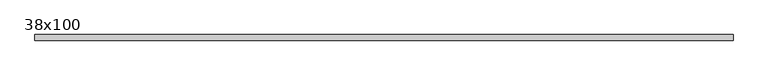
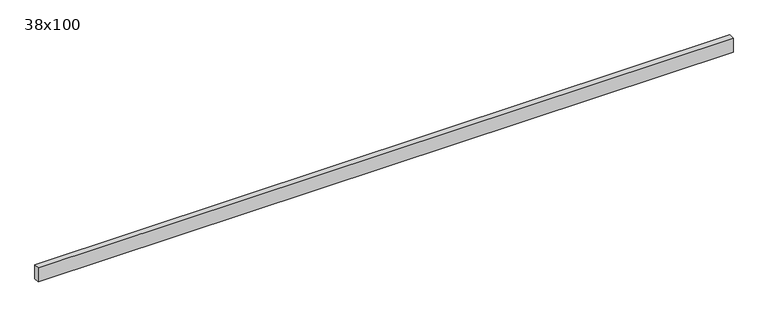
"""IFC4 building model written with IfcOpenShell, lengths in millimetres: beam geometry, Poutre - Bois de construction de dimensions courantes : 38x100."""

import ifcopenshell
import ifcopenshell.guid

model = None  # the IFC model being written
_history = None  # IfcOwnerHistory: only IFC2X3 demands one
_inside = {}  # id of a spatial element -> (the spatial element, [elements in it])
_under = {}  # id of a project, library or spatial element -> (it, [spatial elements below it])
_declared = {}  # id of a project -> (the project, [libraries it declares])
_typed = {}  # id of a type object -> (the type object, [elements of that type])
_made_of = {}  # id of a material, layer set ... -> (it, [elements and type objects made of it])


def new_model(schema):
    """Start an empty IFC model of exactly this schema.

    Asked for "IFC4X3", IfcOpenShell would pick the latest addendum, in which some entities
    have other attributes; the version numbers below select the first issue.
    IFC2X3 requires an IfcOwnerHistory on every rooted entity: one is made here for all.
    """
    global model, _history
    if schema == "IFC4X3":
        model = ifcopenshell.file(schema_version=(4, 3, 0, 0))
    else:
        model = ifcopenshell.file(schema=schema)
    _inside.clear()
    _under.clear()
    _declared.clear()
    _typed.clear()
    _made_of.clear()
    _history = None
    if model.schema == "IFC2X3":
        org = make("IfcOrganization", Name="unknown")
        user = make(
            "IfcPersonAndOrganization",
            ThePerson=make("IfcPerson", FamilyName="unknown"),
            TheOrganization=org,
        )
        app = make(
            "IfcApplication",
            ApplicationDeveloper=org,
            Version="unknown",
            ApplicationFullName="unknown",
            ApplicationIdentifier="unknown",
        )
        _history = make(
            "IfcOwnerHistory",
            OwningUser=user,
            OwningApplication=app,
            ChangeAction="ADDED",
            CreationDate=0,
        )
    return model


def make(cls, **values):
    """One entity of the class cls with the attributes given. An attribute that is None is left unset."""
    return model.create_entity(
        cls, **{name: value for name, value in values.items() if value is not None}
    )


def rooted(cls, **values):
    """An entity with a GlobalId (a new one), such as an element, a storey or a relation."""
    return make(cls, GlobalId=ifcopenshell.guid.new(), OwnerHistory=_history, **values)


def si_unit(unit_type, name, prefix=None):
    """IfcSIUnit, for example si_unit("LENGTHUNIT", "METRE", prefix="MILLI")."""
    return make("IfcSIUnit", UnitType=unit_type, Prefix=prefix, Name=name)


def assignment(units):
    """IfcUnitAssignment: the units of a project."""
    return None if units is None else make("IfcUnitAssignment", Units=units)


def point(xyz):
    """IfcCartesianPoint."""
    return None if xyz is None else make("IfcCartesianPoint", Coordinates=xyz)


def direction(xyz):
    """IfcDirection."""
    return None if xyz is None else make("IfcDirection", DirectionRatios=xyz)


def frame(location, z_axis=None, x_axis=None):
    """IfcAxis2Placement3D, a coordinate frame: its origin and axes. An axis left out is left unset."""
    return make(
        "IfcAxis2Placement3D",
        Location=point(location),
        Axis=direction(z_axis),
        RefDirection=direction(x_axis),
    )


def origin():
    """The frame at (0, 0, 0) with its axes left unset."""
    return frame((0.0, 0.0, 0.0))


def place(relative_to, where):
    """IfcLocalPlacement: puts the frame where relative to a parent placement (None: the world)."""
    return make(
        "IfcLocalPlacement", PlacementRelTo=relative_to, RelativePlacement=where
    )


def context(
    kind, dimensions, precision=None, world=None, true_north=None, identifier=None
):
    """IfcGeometricRepresentationContext, for example the 3D "Model" context."""
    return make(
        "IfcGeometricRepresentationContext",
        ContextIdentifier=identifier,
        ContextType=kind,
        CoordinateSpaceDimension=dimensions,
        Precision=precision,
        WorldCoordinateSystem=world,
        TrueNorth=true_north,
    )


def project(units=None, contexts=None):
    """IfcProject with its units and contexts."""
    return rooted(
        "IfcProject",
        Name="project",
        RepresentationContexts=contexts,
        UnitsInContext=assignment(units),
    )


def spatial(cls, under=None, at=None, **own):
    """A site, building, storey or space (cls), placed at a placement, below another one or the project."""
    s = rooted(cls, ObjectPlacement=at, **own)
    if under is not None:
        _under.setdefault(under.id(), (under, []))[1].append(s)
    return s


def polyline(points):
    """IfcPolyline through the points."""
    return make("IfcPolyline", Points=[point(p) for p in points])


def outline(outer, holes=None, kind="AREA"):
    """IfcArbitraryClosedProfileDef: a profile drawn as a closed curve; with holes, ...WithVoids."""
    if holes is None:
        return make("IfcArbitraryClosedProfileDef", ProfileType=kind, OuterCurve=outer)
    return make(
        "IfcArbitraryProfileDefWithVoids",
        ProfileType=kind,
        OuterCurve=outer,
        InnerCurves=holes,
    )


def extrude(swept, where, along, depth):
    """IfcExtrudedAreaSolid: the profile swept, set in the frame where, extruded along a direction by depth."""
    return make(
        "IfcExtrudedAreaSolid",
        SweptArea=swept,
        Position=where,
        ExtrudedDirection=direction(along),
        Depth=depth,
    )


def shape(context_of_items, identifier, shape_type, items):
    """IfcShapeRepresentation: the items that make up one representation, for example the "Body"."""
    return make(
        "IfcShapeRepresentation",
        ContextOfItems=context_of_items,
        RepresentationIdentifier=identifier,
        RepresentationType=shape_type,
        Items=items,
    )


def source(mapping_origin, context_of_items, identifier, shape_type, items):
    """IfcRepresentationMap: a shape defined once, which mapped items show again and again."""
    return make(
        "IfcRepresentationMap",
        MappingOrigin=mapping_origin,
        MappedRepresentation=shape(context_of_items, identifier, shape_type, items),
    )


def transform(
    local_origin,
    x_axis=None,
    y_axis=None,
    z_axis=None,
    scale=None,
    scale2=None,
    scale3=None,
    uniform=True,
):
    """IfcCartesianTransformationOperator3D, or its non-uniform kind. x_axis, y_axis, z_axis: its Axis1, 2, 3."""
    if uniform:
        return make(
            "IfcCartesianTransformationOperator3D",
            Axis1=direction(x_axis),
            Axis2=direction(y_axis),
            LocalOrigin=point(local_origin),
            Scale=scale,
            Axis3=direction(z_axis),
        )
    return make(
        "IfcCartesianTransformationOperator3DnonUniform",
        Axis1=direction(x_axis),
        Axis2=direction(y_axis),
        LocalOrigin=point(local_origin),
        Scale=scale,
        Axis3=direction(z_axis),
        Scale2=scale2,
        Scale3=scale3,
    )


def mapped(mapping_source, mapping_target):
    """IfcMappedItem: shows the shape of a source again, moved by a transform."""
    return make(
        "IfcMappedItem", MappingSource=mapping_source, MappingTarget=mapping_target
    )


def made_of(thing, what):
    """Note that an element or type object is made of a material, layer set ...; save() writes the relation."""
    if what is not None:
        _made_of.setdefault(what.id(), (what, []))[1].append(thing)
    return thing


def element(
    cls,
    number,
    at=None,
    inside=None,
    cuts=None,
    type_object=None,
    material=None,
    context=None,
    identifier="Body",
    shape_type=None,
    held_by="IfcProductDefinitionShape",
    body=None,
    shapes=None,
    **own,
):
    """One element of the class cls, such as IfcWall. Its Tag is "e" and its number.

    at: its placement. inside: the storey or other place that contains it. cuts: it is an
    opening in that element (IfcRelVoidsElement). A single representation is given by context,
    identifier, shape_type and body (its items); several are given by shapes. held_by: the class
    of the entity that holds the representations. save() writes the other relations.
    """
    e = rooted(cls, Tag="e%d" % number, ObjectPlacement=at, **own)
    if body is not None:
        shapes = [shape(context, identifier, shape_type, body)]
    if shapes is not None:
        e.Representation = make(held_by, Representations=shapes)
    if inside is not None:
        _inside.setdefault(inside.id(), (inside, []))[1].append(e)
    if cuts is not None:
        rooted(
            "IfcRelVoidsElement", RelatingBuildingElement=cuts, RelatedOpeningElement=e
        )
    if type_object is not None:
        _typed.setdefault(type_object.id(), (type_object, []))[1].append(e)
    return made_of(e, material)


def aggregate(whole, parts):
    """IfcRelAggregates: a whole, such as a stair, and the parts it consists of."""
    return rooted("IfcRelAggregates", RelatingObject=whole, RelatedObjects=parts)


def save(model, path):
    """Write the relations noted so far, then the file.

    IfcRelAggregates (storeys below a building ...), IfcRelContainedInSpatialStructure (elements
    in a storey), IfcRelDefinesByType, IfcRelAssociatesMaterial and IfcRelDeclares: one each for
    every whole, place, type object, material and project.
    """
    for whole, parts in _under.values():
        aggregate(whole, parts)
    for where, things in _inside.values():
        rooted(
            "IfcRelContainedInSpatialStructure",
            RelatedElements=things,
            RelatingStructure=where,
        )
    for kind, things in _typed.values():
        rooted("IfcRelDefinesByType", RelatedObjects=things, RelatingType=kind)
    for what, things in _made_of.values():
        rooted("IfcRelAssociatesMaterial", RelatedObjects=things, RelatingMaterial=what)
    for by, libraries in _declared.values():
        rooted("IfcRelDeclares", RelatingContext=by, RelatedDefinitions=libraries)
    model.write(path)


def beam_38x100_a122aa6d(model_context):
    return source(origin(), model_context, "Body", "SweptSolid", [
        extrude(outline(polyline([(2350.5, 19.05), (2350.5, -19.05), (-2350.5, -19.05), (-2350.5, 19.05), (2350.5, 19.05)])), frame((0.0, 0.0, -50.0), z_axis=(0.0, 0.0, 1.0), x_axis=(1.0, 0.0, 0.0)), (0.0, 0.0, 1.0), 100.0),
    ])


if __name__ == "__main__":
    model = new_model("IFC4")
    model_context = context("Model", 3, world=origin())
    ifc_project = project(units=[si_unit("LENGTHUNIT", "METRE", prefix="MILLI")], contexts=[model_context])
    site = spatial("IfcSite", under=ifc_project)
    building = spatial("IfcBuilding", under=site)
    placement = place(None, origin())
    beam_38x100_shape = beam_38x100_a122aa6d(model_context)
    element("IfcBeam", 1, ObjectType="Poutre - Bois de construction de dimensions courantes : 38x100", at=placement, inside=building, context=model_context, shape_type="MappedRepresentation", body=[
        mapped(beam_38x100_shape, transform((0.0, 0.0, 0.0), x_axis=(1.0, 0.0, 0.0), y_axis=(0.0, 1.0, 0.0), z_axis=(0.0, 0.0, 1.0))),
    ])
    save(model, "model.ifc")
